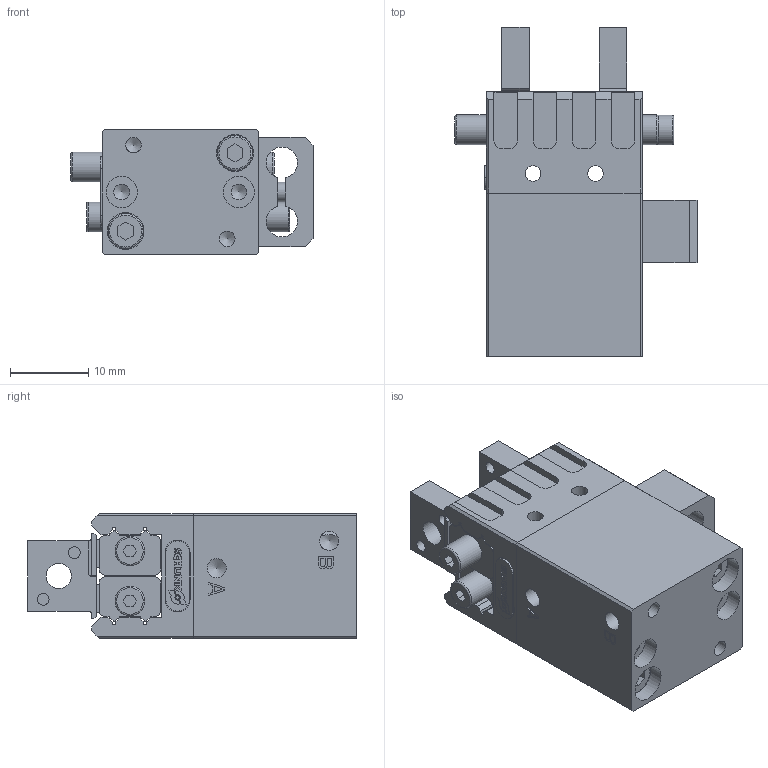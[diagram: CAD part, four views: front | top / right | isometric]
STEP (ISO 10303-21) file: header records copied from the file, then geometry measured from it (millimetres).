
FILE_DESCRIPTION(/* description */ ('STEP AP214'),/* implementation_level */ '2;1');
FILE_NAME(/* name */ 'SCHUNK-0305492 MPG-plus 20-AS_ 0000000',/* time_stamp */ '2026-03-25T08:01:28+01:00',/* author */ ('License CC BY-ND 4.0'),/* organization */ ('CADENAS'),/* preprocessor_version */ 'ST-DEVELOPER v20',/* originating_system */ 'PARTsolutions',/* authorisation */ ' ');
FILE_SCHEMA (('AUTOMOTIVE_DESIGN {1 0 10303 214 3 1 1}'));
Length unit declared in the file: millimetre
Products named in the file (8): SCHUNK-0305492 MPG-plus 20-AS, 0000000; SCHUNK-5520815 Gehaeuse MPG-plus 20 AS; SCHUNK-5520809 Abdeckgehaeuse MPG-plus 20; SCHUNK-5520811 Finger MPG-plus 20; SCHUNK-9962711 Bracket MPG 20; SCHUNK-1526243-Sonderschraube M2x4; SCHUNK-9941369 Typenschild 3x9x0.3; SCHUNK-9646119 Halter MPG 20/25/32/40/50
Assembly tree (14 placements, depth 2):
  SCHUNK-0305492 MPG-plus 20-AS, 0000000
    SCHUNK-5520815 Gehaeuse MPG-plus 20 AS
    SCHUNK-5520809 Abdeckgehaeuse MPG-plus 20
    SCHUNK-5520811 Finger MPG-plus 20  x2
    SCHUNK-9962711 Bracket MPG 20  x4
    SCHUNK-1526243-Sonderschraube M2x4  x4
    SCHUNK-9941369 Typenschild 3x9x0.3
    SCHUNK-9646119 Halter MPG 20/25/32/40/50
Bounding box: 31 x 42.1 x 16 mm (x, y, z)
Volume: 10357.2 mm3; surface area: 8471 mm2
Topology: 14 solids, 14 shells, 569 faces, 1504 edges, 998 vertices
Faces by surface type: plane 403, cylinder 138, cone 22, torus 6
Full cylindrical faces by diameter (mm): 0.48 x1, 1.5 x4, 1.567 x4, 2.013 x10, 2.4 x2, 2.459 x2, 2.5 x3, 2.53 x2, 2.6 x2, 3.242 x2, 3.4 x2, 3.8 x4, 4 x4, 4.5 x2, 4.7 x2, 5 x1, 6 x1
Entity records: 14963 total; most frequent: CARTESIAN_POINT 2291, DIRECTION 2141, ORIENTED_EDGE 2116, EDGE_CURVE 1058, LINE 849, VECTOR 849, VERTEX_POINT 745, AXIS2_PLACEMENT_3D 646
